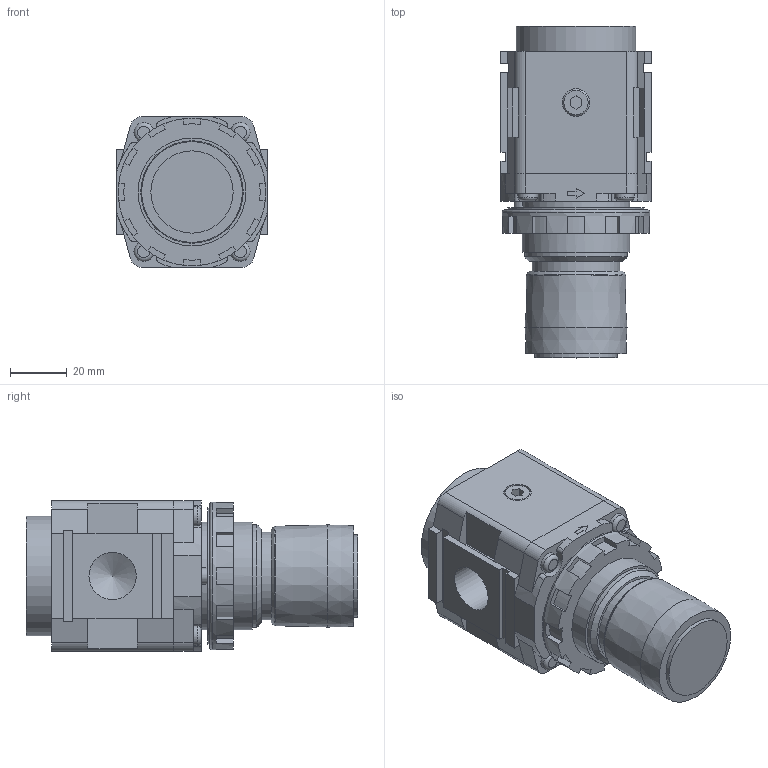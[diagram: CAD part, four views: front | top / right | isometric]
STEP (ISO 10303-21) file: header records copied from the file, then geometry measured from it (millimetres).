
FILE_DESCRIPTION(/* description */ ('STEP AP203'),/* implementation_level */ '2;1');
FILE_NAME(/* name */ 'AR30-03H-D(1)',/* time_stamp */ '2026-03-25T01:45:19+01:00',/* author */ ('License CC BY-ND 4.0'),/* organization */ ('CADENAS'),/* preprocessor_version */ 'ST-DEVELOPER v20',/* originating_system */ 'PARTsolutions',/* authorisation */ ' ');
FILE_SCHEMA (('CONFIG_CONTROL_DESIGN'));
Length unit declared in the file: millimetre
Products named in the file (5): AR30-03H-D(1); AR30-03H-D(1)_BODY; AR30-D_BOWL; AR33P-260S_SETNUT; 1/8
Assembly tree (5 placements, depth 2):
  AR30-03H-D(1)
    AR30-03H-D(1)_BODY
    AR30-D_BOWL
    AR33P-260S_SETNUT
    1/8  x2
Bounding box: 53 x 117 x 53 mm (x, y, z)
Volume: 202684.9 mm3; surface area: 37513.7 mm2
Topology: 5 solids, 5 shells, 290 faces, 762 edges, 504 vertices
Faces by surface type: plane 201, cylinder 69, cone 14, torus 6
Full cylindrical faces by diameter (mm): 7 x4, 9.728 x4, 16.662 x2, 29 x1, 31 x1, 36.11 x1, 36.376 x1, 36.4 x1, 38 x1, 42 x1, 44 x1, 48 x1, 52 x1
Entity records: 8423 total; most frequent: CARTESIAN_POINT 1448, DIRECTION 1442, ORIENTED_EDGE 1372, EDGE_CURVE 686, LINE 498, VECTOR 498, VERTEX_POINT 478, AXIS2_PLACEMENT_3D 472
